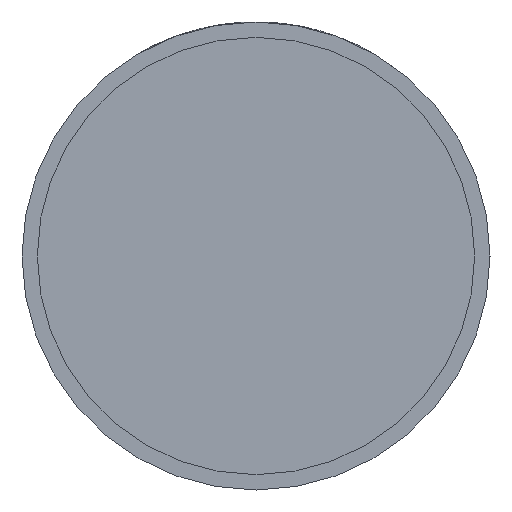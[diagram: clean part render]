
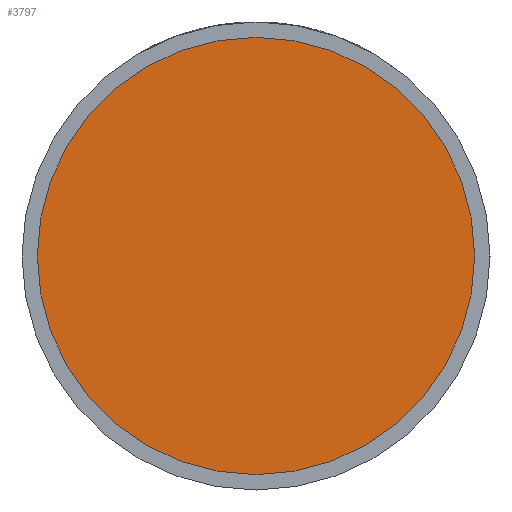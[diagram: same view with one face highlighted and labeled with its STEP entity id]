
A CAD part, front view. The second image highlights one B-rep face of the part: STEP entity #3797.
In plain terms, the highlighted planar face has unit normal (0, -1, 0).
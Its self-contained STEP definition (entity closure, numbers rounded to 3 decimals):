
#253 = AXIS2_PLACEMENT_3D ( 'NONE', #2382, #735, #405 ) ;
#405 = DIRECTION ( 'NONE',  ( 1., 0., 0. ) ) ;
#731 = DIRECTION ( 'NONE',  ( 0., -1., 0. ) ) ;
#735 = DIRECTION ( 'NONE',  ( 0., -1., 0. ) ) ;
#799 = AXIS2_PLACEMENT_3D ( 'NONE', #3184, #3784, #2211 ) ;
#807 = EDGE_CURVE ( 'NONE', #2192, #968, #3436, .T. ) ;
#968 = VERTEX_POINT ( 'NONE', #3327 ) ;
#1413 = AXIS2_PLACEMENT_3D ( 'NONE', #1436, #731, #2746 ) ;
#1436 = CARTESIAN_POINT ( 'NONE',  ( 28.5, -17.5, 0. ) ) ;
#1550 = CIRCLE ( 'NONE', #799, 28.5 ) ;
#2192 = VERTEX_POINT ( 'NONE', #2593 ) ;
#2211 = DIRECTION ( 'NONE',  ( 1., 0., 0. ) ) ;
#2357 = PLANE ( 'NONE',  #1413 ) ;
#2382 = CARTESIAN_POINT ( 'NONE',  ( 0., -17.5, 0. ) ) ;
#2450 = ORIENTED_EDGE ( 'NONE', *, *, #3899, .T. ) ;
#2593 = CARTESIAN_POINT ( 'NONE',  ( -28.5, -17.5, 0. ) ) ;
#2605 = EDGE_LOOP ( 'NONE', ( #2450, #3786 ) ) ;
#2746 = DIRECTION ( 'NONE',  ( 1., 0., 0. ) ) ;
#3184 = CARTESIAN_POINT ( 'NONE',  ( 0., -17.5, 0. ) ) ;
#3327 = CARTESIAN_POINT ( 'NONE',  ( 28.5, -17.5, 0. ) ) ;
#3436 = CIRCLE ( 'NONE', #253, 28.5 ) ;
#3679 = FACE_OUTER_BOUND ( 'NONE', #2605, .T. ) ;
#3784 = DIRECTION ( 'NONE',  ( 0., -1., 0. ) ) ;
#3786 = ORIENTED_EDGE ( 'NONE', *, *, #807, .T. ) ;
#3797 = ADVANCED_FACE ( 'NONE', ( #3679 ), #2357, .T. ) ;
#3899 = EDGE_CURVE ( 'NONE', #968, #2192, #1550, .T. ) ;
